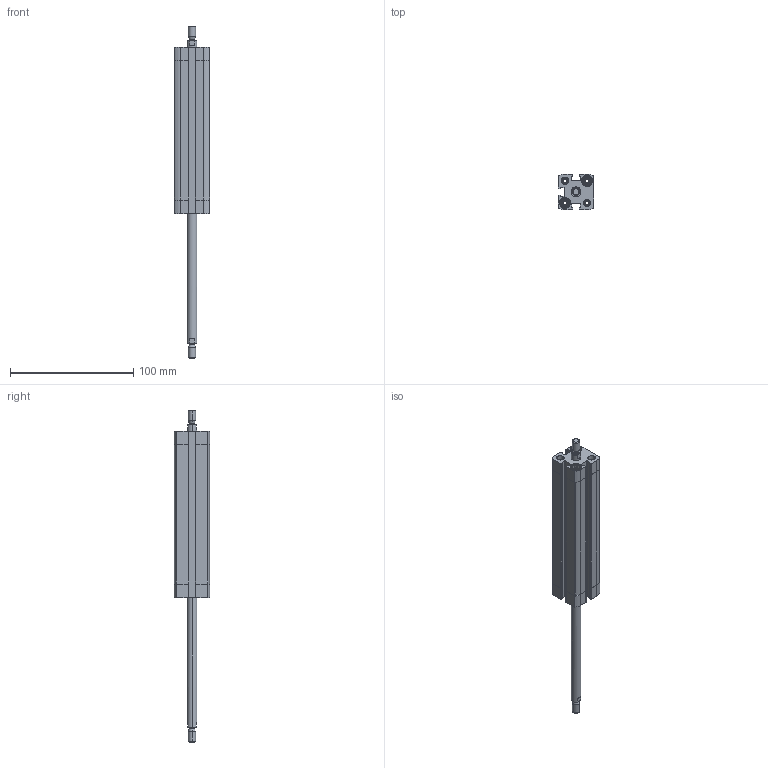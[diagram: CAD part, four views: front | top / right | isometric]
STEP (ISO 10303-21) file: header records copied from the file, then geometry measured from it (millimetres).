
FILE_DESCRIPTION (( 'STEP AP203' ), '1' );
FILE_NAME ('CCN16-100-P.STEP', '2020-06-22T18:38:40', ( '' ), ( '' ), 'SwSTEP 2.0', 'SolidWorks 2019', '' );
FILE_SCHEMA (( 'CONFIG_CONTROL_DESIGN' ));
Length unit declared in the file: millimetre
Products named in the file (1): CCN16-100-P
Bounding box: 29 x 29 x 269.7 mm (x, y, z)
Volume: 79686.6 mm3; surface area: 42314.2 mm2
Topology: 2 solids, 2 shells, 384 faces, 978 edges, 634 vertices
Faces by surface type: plane 192, cylinder 140, cone 44, torus 8
Entity records: 11803 total; most frequent: CARTESIAN_POINT 2297, DIRECTION 1990, ORIENTED_EDGE 1956, EDGE_CURVE 978, AXIS2_PLACEMENT_3D 727, VERTEX_POINT 634, VECTOR 536, LINE 536
